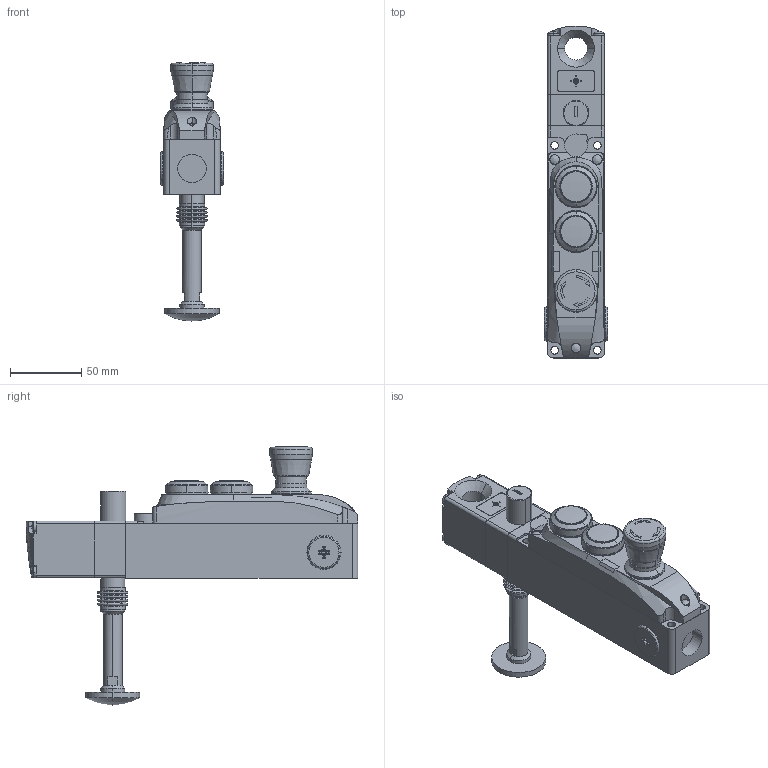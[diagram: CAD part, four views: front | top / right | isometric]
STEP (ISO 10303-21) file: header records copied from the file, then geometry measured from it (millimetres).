
FILE_DESCRIPTION (( 'STEP AP203' ), '1' );
FILE_NAME ('ZF_STEP_NG_xD6Dxx2V-LP60.STEP', '2025-04-16T07:25:42', ( '' ), ( '' ), 'SwSTEP 2.0', 'SolidWorks 2023', '' );
FILE_SCHEMA (( 'CONFIG_CONTROL_DESIGN' ));
Length unit declared in the file: millimetre
Products named in the file (20): ZF_STEP_VF_PTM20_M20x1; ZF_STEP_VN_NG-AC26052; Pizzato_Modulo_NGD6_default; Pizzato_prolunghe_LP60; Pizzato_Fungo_NG_8841; NG_3dweb_cop rialzato comune_Coperchio 3 fori; Pulsante rasato_3DWeb_27126 blu; ZF_STEP_VN_NG-AC27126; ZF_STEP_NG_xD6Dxx2V-LP60; Pulsante rasato_3DWeb_27121 bianco; Pizzato_NG_coperchio alto_3 FORI; Pizzato_Supporto_NGD1_TGD1; NG_3dweb_testa_default; NG_3dweb_VN NG-LPxx-ERB_LP60; NG_custodia_new_NE per coperchio alto; ZF_STEP_VN_NG-AC27121; NG_3dweb_sblocco_D6x_default; NG_3dweb_custodia_senza sblocco a cacciavite; ZF_STEP_VF_PTM20_default; Pulsate emergenza rosso_3DWeb_26052
Assembly tree (20 placements, depth 3):
  ZF_STEP_NG_xD6Dxx2V-LP60
    NG_3dweb_custodia_senza sblocco a cacciavite
      NG_custodia_new_NE per coperchio alto
    NG_3dweb_sblocco_D6x_default
      Pizzato_Modulo_NGD6_default
    NG_3dweb_testa_default
      Pizzato_Supporto_NGD1_TGD1
    ZF_STEP_VN_NG-AC27121
      Pulsante rasato_3DWeb_27121 bianco
    ZF_STEP_VN_NG-AC27126
      Pulsante rasato_3DWeb_27126 blu
    ZF_STEP_VN_NG-AC26052
      Pulsate emergenza rosso_3DWeb_26052
    NG_3dweb_cop rialzato comune_Coperchio 3 fori
      Pizzato_NG_coperchio alto_3 FORI
    ZF_STEP_VF_PTM20_M20x1  x2
      ZF_STEP_VF_PTM20_default
    NG_3dweb_VN NG-LPxx-ERB_LP60
      Pizzato_Fungo_NG_8841
      Pizzato_prolunghe_LP60
Bounding box: 44.8 x 233.3 x 181.4 mm (x, y, z)
Volume: 488594.2 mm3; surface area: 97597 mm2
Topology: 11 solids, 13 shells, 902 faces, 2218 edges, 1387 vertices
Faces by surface type: plane 340, cylinder 325, bspline 83, cone 72, torus 58, sphere 24
Entity records: 29274 total; most frequent: CARTESIAN_POINT 8050, DIRECTION 4024, ORIENTED_EDGE 4004, EDGE_CURVE 2002, AXIS2_PLACEMENT_3D 1525, VERTEX_POINT 1275, VECTOR 974, LINE 974
